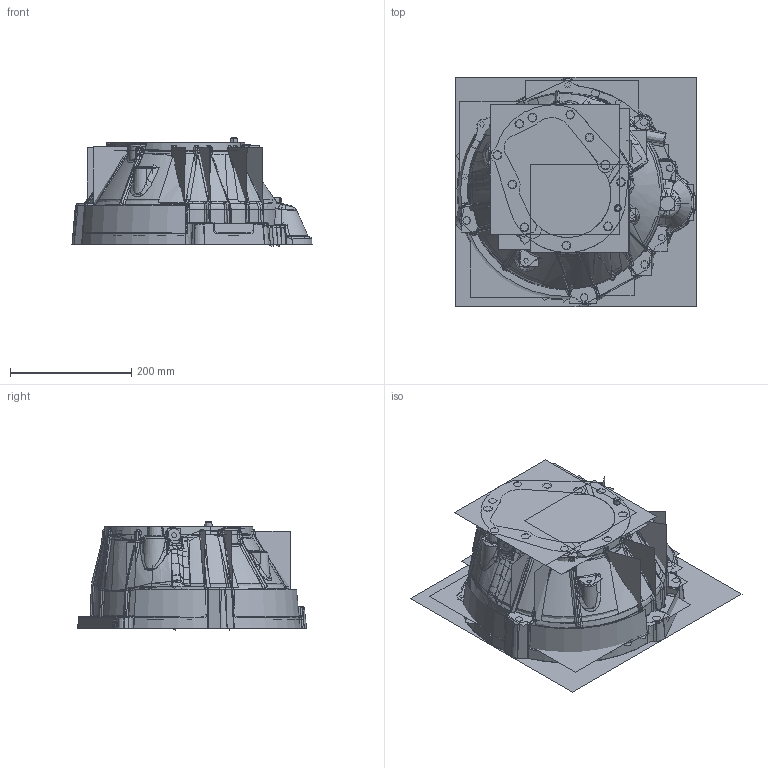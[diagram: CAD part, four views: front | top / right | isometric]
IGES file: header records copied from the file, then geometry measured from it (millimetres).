
Start section:  PTC IGES file: C:\DOCUME~1\ADMINI~1\LOCALS~1\Temp\__pktempfile__0.igs
Global section: file name: C:\DOCUME~1\ADMINI~1\LOCALS~1\Temp\__pktempfile__0.igs; native system:  by Parametric Technology Corporation; preprocessor: 2007370; organization: Unknown; date: 20120427.093852; units: millimetre
Bounding box: 396.8 x 378.36 x 179.4 mm (x, y, z)
Surface area: 2448818.7 mm2 (no closed solid volume)
Topology: 0 solids, 0 shells, 2701 faces, 45425 edges, 58851 vertices
Faces by surface type: bspline 1891, revolution 808, extrusion 2
